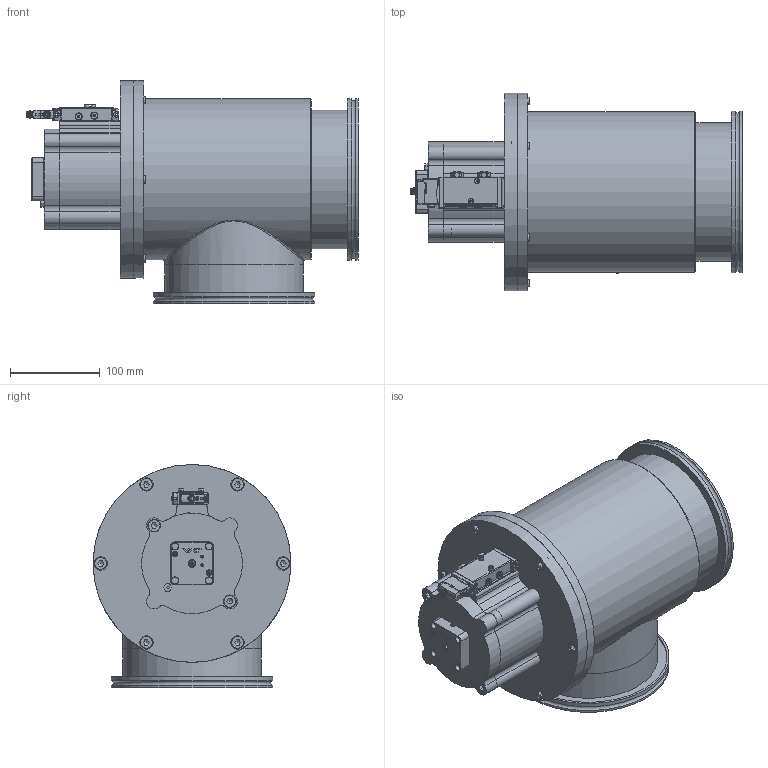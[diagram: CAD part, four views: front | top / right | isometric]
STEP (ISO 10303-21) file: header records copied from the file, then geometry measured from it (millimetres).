
FILE_DESCRIPTION(/* description */ (''),/* implementation_level */ '2;1');
FILE_NAME(/* name */ '1133634934_203.stp',/* time_stamp */ '2014-10-09T10:52:50+02:00',/* author */ (''),/* organization */ (''),/* preprocessor_version */ 'ST-DEVELOPER v11',/* originating_system */ 'SIEMENS PLM Software NX 7.5',/* authorisation */ '');
FILE_SCHEMA (('AP203_CONFIGURATION_CONTROLLED_3D_DESIGN_OF_MECHANICAL_PARTS_AND_ASSEMBLIES_MIM_LF'));
Length unit declared in the file: millimetre
Products named in the file (27): 521703; 521699; 521708; 521706; 521707; 521705; 233359; 236204_1.1; 366217; n-6134-404.1; n-6005-429.1; 571495; 538796; n-6121-026.2; 517625_18342ID; 711043; n-7636-200.2; 544355; 542372; 228777; 476060; 239983.3; 572183_MODEL; 521696_MODEL; 522333_MODEL; 544362_MODEL; 705434
Assembly tree (39 placements, depth 4):
  705434
    476060
    228777  x6
    542372
    544362_MODEL
      517625_18342ID
      n-6121-026.2  x2
    522333_MODEL
      521696_MODEL
        521705  x2
        521707
        521706
        521708
        521699
        521703
    544355
    n-7636-200.2
    572183_MODEL
      538796
      571495  x2
      n-6005-429.1  x2
      n-6134-404.1  x2
      366217  x2
    239983.3
      236204_1.1  x2
      233359
    711043  x2
Bounding box: 369.15 x 220 x 248 mm (x, y, z)
Volume: 1552870.6 mm3; surface area: 661271.2 mm2
Topology: 59 solids, 61 shells, 1609 faces, 3914 edges, 2535 vertices
Faces by surface type: plane 880, cylinder 472, cone 156, torus 53, bspline 21, extrusion 19, sphere 8
Full cylindrical faces by diameter (mm): 1 x3, 2.46 x2, 2.5 x7, 2.6 x2, 3 x11, 3.2 x4, 3.8 x1, 3.85 x2, 4.2 x2, 4.5 x1, 5 x1, 5.5 x2, 5.6 x3, 5.8 x1, 6 x4, 6.2 x2, 6.5 x2, 6.66 x8, 6.7 x8, 6.8 x10, 6.9 x1, 7.2 x1, 7.4 x3, 8 x20, 8.1 x1, 8.15 x2, 8.3 x6, 8.4 x1, 8.566 x5, 9 x6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
Entity records: 51063 total; most frequent: CARTESIAN_POINT 10464, DIRECTION 6842, ORIENTED_EDGE 6310, EDGE_CURVE 3155, AXIS2_PLACEMENT_3D 2572, VERTEX_POINT 2183, EDGE_LOOP 1854, VECTOR 1698
